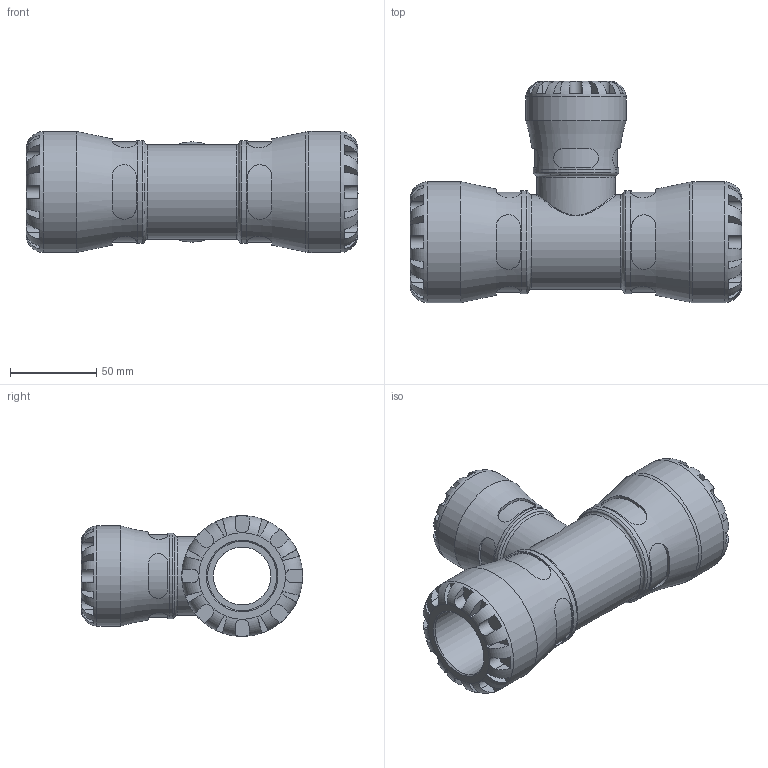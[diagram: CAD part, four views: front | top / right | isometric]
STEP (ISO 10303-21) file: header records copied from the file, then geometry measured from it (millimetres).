
FILE_DESCRIPTION(/* description */ ('PLASSON REDUCING TEE 40X32X40 SERIES 1'),/* implementation_level */ '2;1');
FILE_NAME(/* name */ 'C:\Dropbox\KIMPROJECTS-Inventor\99-16-3568-Processing\1034\103400040032_193400040032.ipt.stp',/* time_stamp */ '2017-01-22T11:40:44+02:00',/* author */ ('KIM'),/* organization */ (''),/* preprocessor_version */ 'ST-DEVELOPER v15.6',/* originating_system */ 'Autodesk Inventor 2015',/* authorisation */ '');
FILE_SCHEMA (('AUTOMOTIVE_DESIGN { 1 0 10303 214 3 1 1 }'));
Length unit declared in the file: millimetre
Products named in the file (1): 103400040032_193400040032
Bounding box: 192 x 128 x 70 mm (x, y, z)
Volume: 438653.9 mm3; surface area: 90097.9 mm2
Topology: 1 solids, 1 shells, 287 faces, 732 edges, 459 vertices
Faces by surface type: plane 174, cylinder 97, torus 13, cone 2, bspline 1
Full cylindrical faces by diameter (mm): 26.667 x1, 32 x1, 33.333 x1, 40 x2, 45.24 x1, 49.3 x1, 54.6 x1, 58 x1, 59.5 x2, 70 x2
Entity records: 11303 total; most frequent: CARTESIAN_POINT 4493, ORIENTED_EDGE 1364, DIRECTION 1308, EDGE_CURVE 682, AXIS2_PLACEMENT_3D 534, VERTEX_POINT 441, EDGE_LOOP 335, STYLED_ITEM 288
